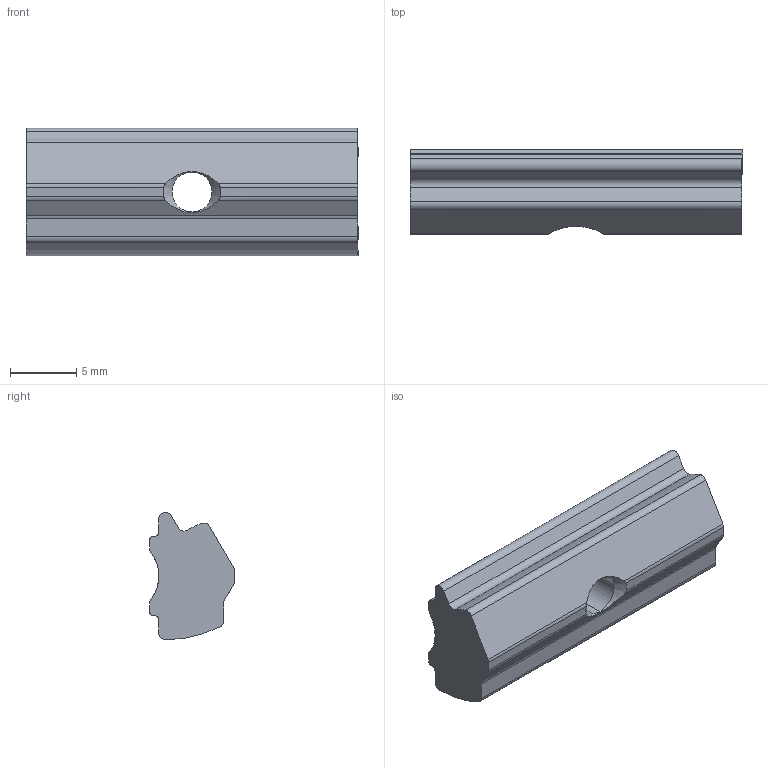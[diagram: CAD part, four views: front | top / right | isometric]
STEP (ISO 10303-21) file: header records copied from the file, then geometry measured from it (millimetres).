
FILE_DESCRIPTION((''),'2;1');
FILE_NAME('E:\端から修正\NAMT-06-3.stp','2013-11-07T16:11:22',('AMS8'),(''),'Autodesk Inventor 2008','Autodesk Inventor 2008','');
FILE_SCHEMA(('AUTOMOTIVE_DESIGN { 1 0 10303 214 1 1 1 1 }'));
Length unit declared in the file: millimetre
Products named in the file (4): NAST-06-3; DEFAULT; DEFAULTA
Assembly tree (3 placements, depth 3):
  NAST-06-3
    DEFAULT
      DEFAULT
      DEFAULTA
Bounding box: 25 x 6.4 x 9.6 mm (x, y, z)
Volume: 1067.8 mm3; surface area: 829.2 mm2
Topology: 1 solids, 1 shells, 42 faces, 129 edges, 87 vertices
Faces by surface type: cylinder 24, plane 14, cone 4
Entity records: 1626 total; most frequent: CARTESIAN_POINT 364, ORIENTED_EDGE 258, DIRECTION 250, EDGE_CURVE 129, AXIS2_PLACEMENT_3D 93, VERTEX_POINT 87, VECTOR 64, LINE 64
